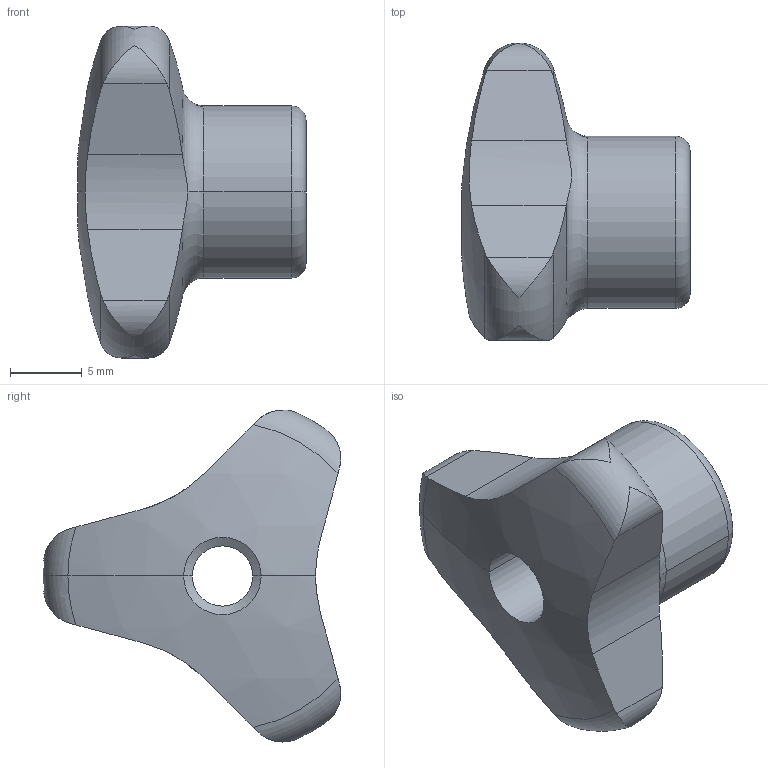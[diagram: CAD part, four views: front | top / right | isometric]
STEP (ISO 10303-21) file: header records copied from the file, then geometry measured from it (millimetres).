
FILE_DESCRIPTION (( 'STEP AP214' ), '1' );
FILE_NAME ('5345-25-M5-D.step', '2019-06-13T08:48:26', ( 'user' ), ( '' ), 'SwSTEP 2.0', 'SolidWorks 2019', '' );
FILE_SCHEMA (( 'AUTOMOTIVE_DESIGN' ));
Length unit declared in the file: millimetre
Products named in the file (1): 5345-25-M5-D
Bounding box: 15.9 x 20.74 x 23.14 mm (x, y, z)
Volume: 2447.2 mm3; surface area: 1406.3 mm2
Topology: 1 solids, 1 shells, 39 faces, 107 edges, 69 vertices
Faces by surface type: cylinder 16, torus 8, plane 7, sphere 6, cone 2
Entity records: 1493 total; most frequent: CARTESIAN_POINT 478, ORIENTED_EDGE 214, DIRECTION 193, EDGE_CURVE 107, AXIS2_PLACEMENT_3D 86, VERTEX_POINT 69, CIRCLE 46, EDGE_LOOP 40
